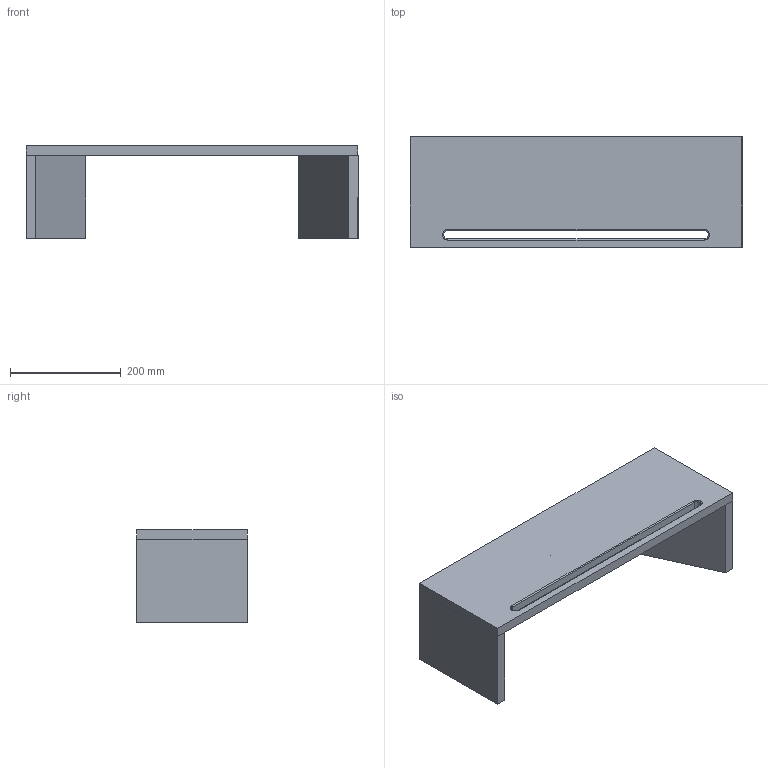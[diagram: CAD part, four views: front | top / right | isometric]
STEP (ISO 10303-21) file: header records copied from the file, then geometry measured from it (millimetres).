
FILE_DESCRIPTION(/* description */ (''),/* implementation_level */ '2;1');
FILE_NAME(/* name */ 'Desk Riser.step',/* time_stamp */ '2024-02-05T17:39:53+01:00',/* author */ (''),/* organization */ (''),/* preprocessor_version */ 'ST-DEVELOPER v20',/* originating_system */ 'Autodesk Translation Framework v12.14.0.127',/* authorisation */ '');
FILE_SCHEMA (('AUTOMOTIVE_DESIGN { 1 0 10303 214 3 1 1 }'));
Length unit declared in the file: millimetre
Products named in the file (6): Desk Riser; top; right; rightInnerAngled; left side; rightInnerAngled(Mirror)
Assembly tree (5 placements, depth 2):
  Desk Riser
    top
    right
    rightInnerAngled
    left side
    rightInnerAngled(Mirror)
Bounding box: 600 x 200 x 168 mm (x, y, z)
Volume: 3865707.6 mm3; surface area: 595198.9 mm2
Topology: 5 solids, 5 shells, 138 faces, 328 edges, 216 vertices
Faces by surface type: plane 91, cylinder 43, torus 4
Full cylindrical faces by diameter (mm): 8 x12
Entity records: 4199 total; most frequent: DIRECTION 716, CARTESIAN_POINT 693, ORIENTED_EDGE 656, EDGE_CURVE 328, AXIS2_PLACEMENT_3D 239, LINE 238, VECTOR 238, VERTEX_POINT 216
